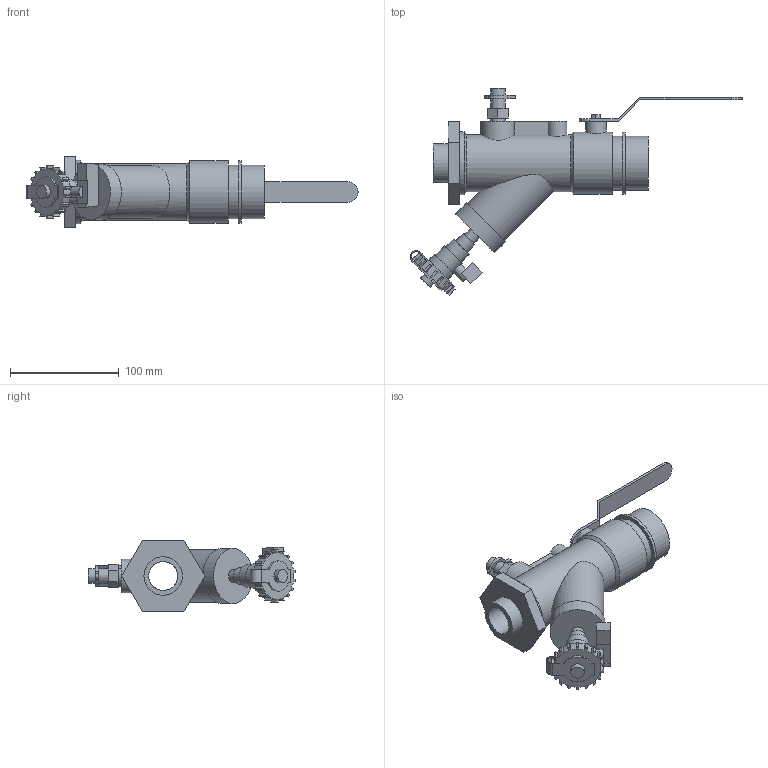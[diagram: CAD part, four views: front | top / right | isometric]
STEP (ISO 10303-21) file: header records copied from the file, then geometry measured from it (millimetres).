
FILE_DESCRIPTION(/* description */ ('VIC Y-STRAINER/BALL SERIES 78Y (FPT)','CAx-IF Rec.Pracs.---Representation and Presentation of Product Manufacturing Information (PMI)---4.0---2014-10-13'),/* implementation_level */ '2;1');
FILE_NAME(/* name */ 'C:\Users\kkamble\Desktop\extraction\OldVersions\Victaulic_IPS_Valve Ball Y Strainer Combination_Series 78Y (FPT)\Victaulic_IPS_Valve Ball Y Strainer Combination_Series 78Y (FPT)_01.25x0.75 (32x20).stp',/* time_stamp */ '2020-10-19T10:39:06+05:00',/* author */ ('kkamble'),/* organization */ ('Victaulic'),/* preprocessor_version */ 'ST-DEVELOPER v17.2',/* originating_system */ 'Autodesk Inventor 2019',/* authorisation */ '');
FILE_SCHEMA (('AP242_MANAGED_MODEL_BASED_3D_ENGINEERING_MIM_LF { 1 0 10303 442 1 1 4 }'));
Length unit declared in the file: inch
Products named in the file (1): 78Y-1.25x0.75
Bounding box: 305.97 x 190.92 x 66.04 mm (x, y, z)
Volume: 301755.6 mm3; surface area: 120057.2 mm2
Topology: 2 solids, 3 shells, 218 faces, 590 edges, 398 vertices
Faces by surface type: plane 148, cylinder 68, cone 2
Full cylindrical faces by diameter (mm): 10.16 x1, 11.887 x1, 12.565 x1, 12.7 x1, 13.462 x5, 15.24 x1, 19.05 x1, 20.32 x1, 22.86 x1, 25.4 x1, 26.67 x2, 27.94 x1, 35.56 x2, 38.1 x1, 42.164 x2, 43.18 x1, 48.26 x1, 49.53 x2, 50.8 x1, 52.324 x1, 57.15 x1, 57.404 x1, 58.42 x1
Entity records: 7768 total; most frequent: CARTESIAN_POINT 1849, DIRECTION 1227, ORIENTED_EDGE 1180, EDGE_CURVE 590, AXIS2_PLACEMENT_3D 435, VERTEX_POINT 398, LINE 357, VECTOR 357
